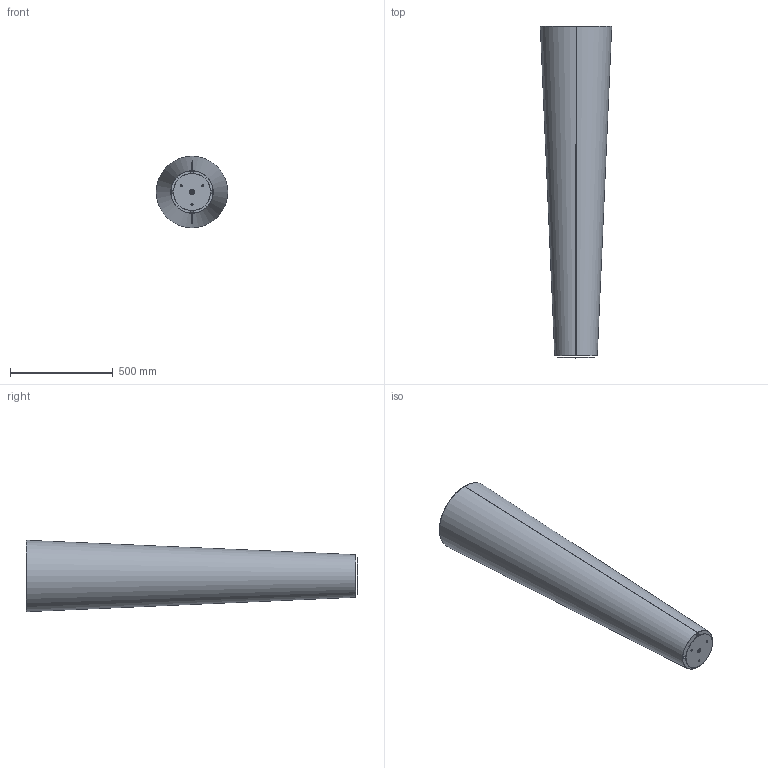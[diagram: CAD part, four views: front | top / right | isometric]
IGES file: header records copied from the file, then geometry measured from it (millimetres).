
Start section: SolidWorks IGES file using analytic representation for surfaces
Global section: file name: \\utenti\Dati Utenti\Tecnico\DC\2D - 3D per sito\3D\DeCastelli-3D-Narnya 160.igs; native system: SolidWorks 2022; preprocessor: SolidWorks 2022; author: Simonep; date: 240807.172507; units: millimetre
Bounding box: 346.87 x 1612.5 x 346.87 mm (x, y, z)
Surface area: 3046883.9 mm2 (no closed solid volume)
Topology: 0 solids, 0 shells, 44 faces, 1170 edges, 1170 vertices
Faces by surface type: revolution 24, bspline 20
